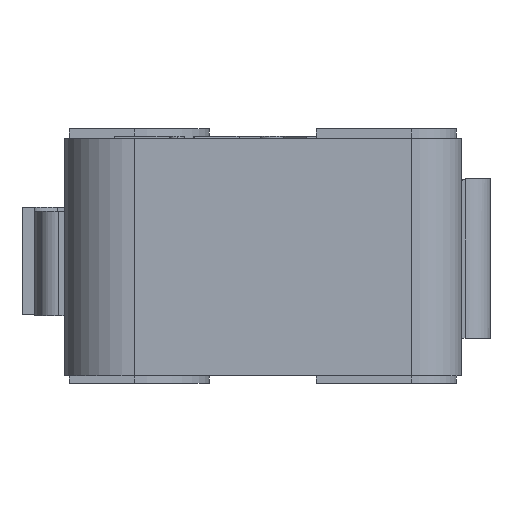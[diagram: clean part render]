
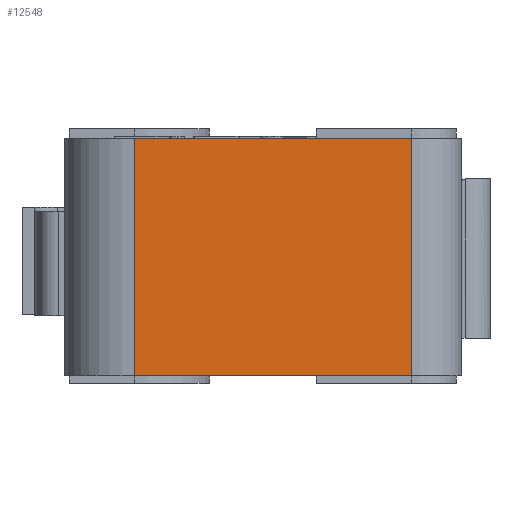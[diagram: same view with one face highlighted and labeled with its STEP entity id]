
A CAD part, left-side view. The second image highlights one B-rep face of the part: STEP entity #12548.
In plain terms, the highlighted planar face has unit normal (-1, 0, 0).
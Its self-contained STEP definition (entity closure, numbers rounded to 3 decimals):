
#2451=DIRECTION('',(0.,0.,-1.));
#2452=VECTOR('',#2451,9.5);
#2453=CARTESIAN_POINT('',(-27.322,8.207,4.8));
#2454=LINE('',#2453,#2452);
#2455=DIRECTION('',(0.,-1.,0.));
#2456=VECTOR('',#2455,11.1);
#2457=CARTESIAN_POINT('',(-27.322,8.207,4.8));
#2458=LINE('',#2457,#2456);
#2459=DIRECTION('',(0.,0.,1.));
#2460=VECTOR('',#2459,9.5);
#2461=CARTESIAN_POINT('',(-27.322,-2.893,
-4.7));
#2462=LINE('',#2461,#2460);
#3663=DIRECTION('',(0.,-1.,0.));
#3664=VECTOR('',#3663,11.1);
#3665=CARTESIAN_POINT('',(-27.322,8.207,
-4.7));
#3666=LINE('',#3665,#3664);
#9117=CARTESIAN_POINT('',(-27.322,-2.893,
4.8));
#9118=VERTEX_POINT('',#9117);
#9119=CARTESIAN_POINT('',(-27.322,8.207,4.8));
#9120=VERTEX_POINT('',#9119);
#9869=CARTESIAN_POINT('',(-27.322,8.207,
-4.7));
#9870=VERTEX_POINT('',#9869);
#9871=CARTESIAN_POINT('',(-27.322,-2.893,
-4.7));
#9872=VERTEX_POINT('',#9871);
#12535=CARTESIAN_POINT('',(-27.322,11.007,
-4.7));
#12536=DIRECTION('',(-1.,0.,0.));
#12537=DIRECTION('',(0.,-1.,0.));
#12538=AXIS2_PLACEMENT_3D('',#12535,#12536,#12537);
#12539=PLANE('',#12538);
#12540=ORIENTED_EDGE('',*,*,#12528,.F.);
#12541=ORIENTED_EDGE('',*,*,#11594,.T.);
#12543=ORIENTED_EDGE('',*,*,#12542,.F.);
#12545=ORIENTED_EDGE('',*,*,#12544,.F.);
#12546=EDGE_LOOP('',(#12540,#12541,#12543,#12545));
#12547=FACE_OUTER_BOUND('',#12546,.F.);
#12548=ADVANCED_FACE('',(#12547),#12539,.T.);
#11594=EDGE_CURVE('',#9120,#9118,#2458,.T.);
#12528=EDGE_CURVE('',#9120,#9870,#2454,.T.);
#12542=EDGE_CURVE('',#9872,#9118,#2462,.T.);
#12544=EDGE_CURVE('',#9870,#9872,#3666,.T.);
